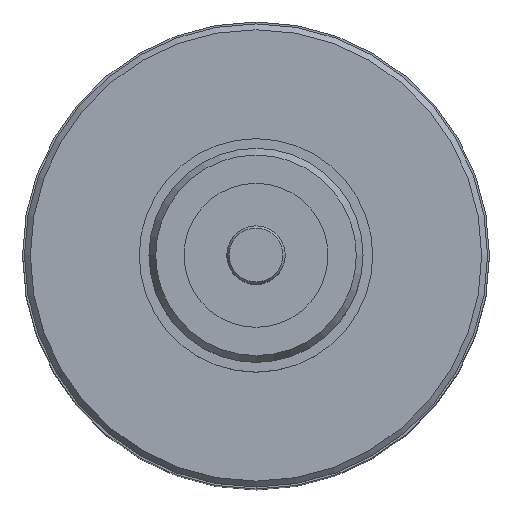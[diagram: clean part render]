
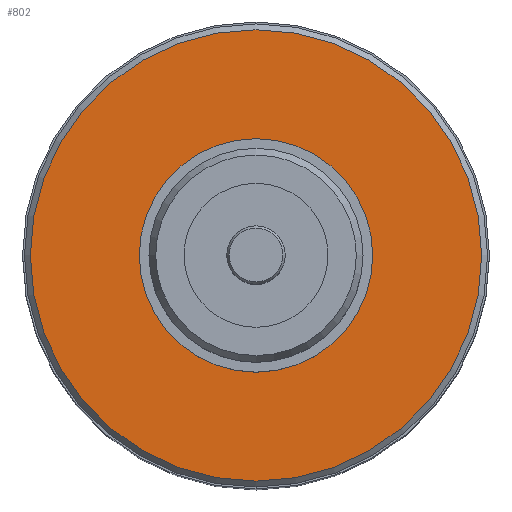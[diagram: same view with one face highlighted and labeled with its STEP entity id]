
A CAD part, top view. The second image highlights one B-rep face of the part: STEP entity #802.
In plain terms, the highlighted planar face has unit normal (0, 0, 1).
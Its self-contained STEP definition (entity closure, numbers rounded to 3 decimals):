
#802=ADVANCED_FACE('',(#1061,#1062),#945,.T.);
#945=PLANE('',#2559);
#1061=FACE_BOUND('',#1139,.T.);
#1062=FACE_BOUND('',#1140,.T.);
#1139=EDGE_LOOP('',(#1331));
#1140=EDGE_LOOP('',(#1332));
#1331=ORIENTED_EDGE('',*,*,#2198,.F.);
#1332=ORIENTED_EDGE('',*,*,#2199,.T.);
#1973=VERTEX_POINT('',#3180);
#1974=VERTEX_POINT('',#3182);
#2198=EDGE_CURVE('',#1973,#1973,#2521,.T.);
#2199=EDGE_CURVE('',#1974,#1974,#2522,.T.);
#2521=CIRCLE('',#2557,3.);
#2522=CIRCLE('',#2558,5.8);
#2557=AXIS2_PLACEMENT_3D('',#3179,#2726,#2727);
#2558=AXIS2_PLACEMENT_3D('',#3181,#2728,#2729);
#2559=AXIS2_PLACEMENT_3D('',#3183,#2730,#2731);
#2726=DIRECTION('',(0.,0.,1.));
#2727=DIRECTION('',(1.,0.,0.));
#2728=DIRECTION('',(0.,0.,1.));
#2729=DIRECTION('',(1.,0.,0.));
#2730=DIRECTION('',(0.,0.,1.));
#2731=DIRECTION('',(1.,0.,0.));
#3179=CARTESIAN_POINT('',(0.,0.,0.));
#3180=CARTESIAN_POINT('',(3.,0.,0.));
#3181=CARTESIAN_POINT('',(0.,0.,0.));
#3182=CARTESIAN_POINT('',(5.8,0.,0.));
#3183=CARTESIAN_POINT('',(5.95,0.,0.));
